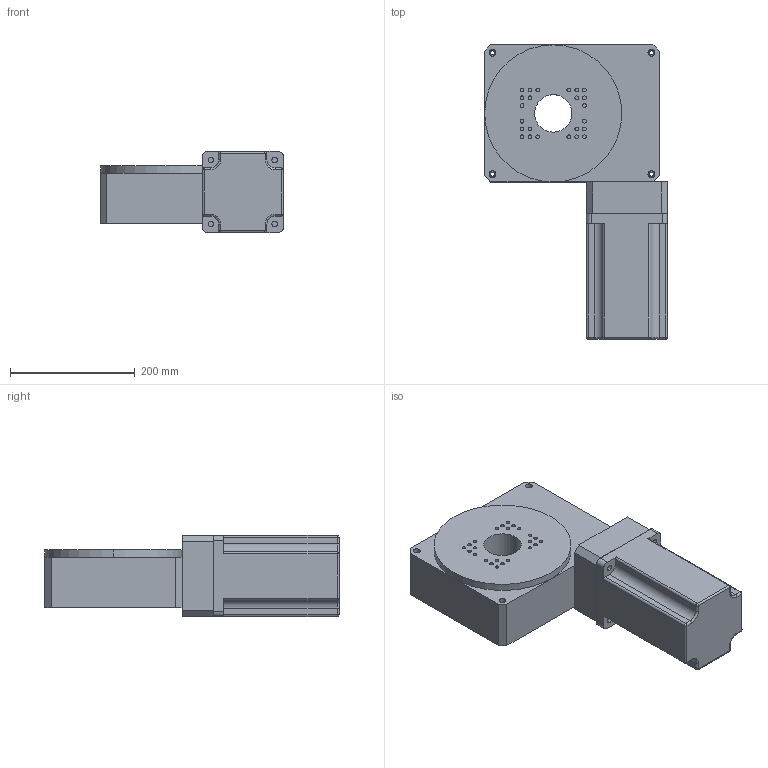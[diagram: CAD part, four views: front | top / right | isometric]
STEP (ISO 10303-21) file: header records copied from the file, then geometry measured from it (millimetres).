
FILE_DESCRIPTION (( 'STEP AP214' ), '1' );
FILE_NAME ('PT-GD220H(伺服电机）.STEP', '2022-09-17T10:40:56', ( '' ), ( '' ), 'SwSTEP 2.0', 'SolidWorks 2017', '' );
FILE_SCHEMA (( 'AUTOMOTIVE_DESIGN' ));
Length unit declared in the file: millimetre
Products named in the file (4): PT-GD220H; dianji; 萇儂啣; PT-GD220H(伺服电机）
Assembly tree (3 placements, depth 2):
  PT-GD220H(伺服电机）
    PT-GD220H
    dianji
    萇儂啣
Bounding box: 293 x 472 x 130 mm (x, y, z)
Volume: 8963727.6 mm3; surface area: 433166.7 mm2
Topology: 3 solids, 3 shells, 384 faces, 963 edges, 632 vertices
Faces by surface type: plane 182, cylinder 111, bspline 80, torus 8, cone 3
Entity records: 15009 total; most frequent: CARTESIAN_POINT 5972, ORIENTED_EDGE 1926, DIRECTION 1643, EDGE_CURVE 963, VERTEX_POINT 632, LINE 569, VECTOR 569, AXIS2_PLACEMENT_3D 537
